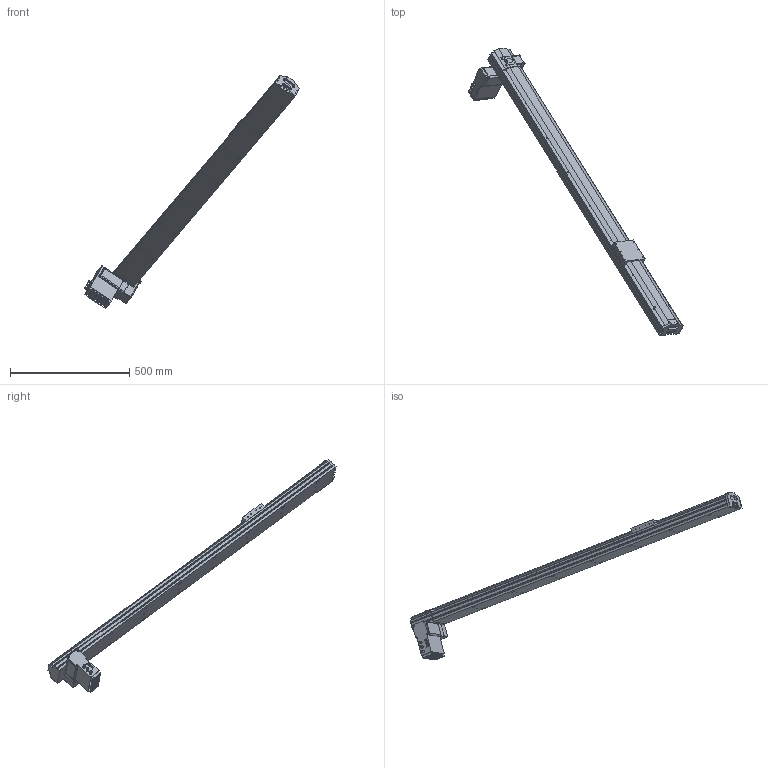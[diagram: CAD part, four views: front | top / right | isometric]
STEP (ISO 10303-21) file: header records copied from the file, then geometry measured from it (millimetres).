
FILE_DESCRIPTION (( 'STEP AP203' ), '1' );
FILE_NAME ('S10 CBH LU S1600.STEP', '2012-10-01T07:01:09', ( '' ), ( '' ), 'SwSTEP 2.0', 'SolidWorks 2010', '' );
FILE_SCHEMA (( 'CONFIG_CONTROL_DESIGN' ));
Length unit declared in the file: millimetre
Products named in the file (14): Vis M5 L16-2_Default_1; S10 CBH LU S1600; renvoi LH_Default; palette tbh; MOTEUR GMI 61 ; axe 1600; plaque de bout s10_Default; cache t皻e axe_Default; cache t皻e_Default; Plaque racord_Default; vis M5 L12_Default; Cvis M5 L30_Default; vis M5 L5_Default; embout
Assembly tree (24 placements, depth 2):
  S10 CBH LU S1600
    cache t皻e axe_Default
    vis M5 L12_Default  x4
    embout
    renvoi LH_Default
    vis M5 L5_Default  x4
    Vis M5 L16-2_Default_1  x4
    cache t皻e_Default  x2
    MOTEUR GMI 61 
    plaque de bout s10_Default
    axe 1600
    Cvis M5 L30_Default  x2
    palette tbh
    Plaque racord_Default
Bounding box: 900.23 x 1208.01 x 978.49 mm (x, y, z)
Volume: 9483034.4 mm3; surface area: 978231 mm2
Topology: 24 solids, 24 shells, 1087 faces, 2644 edges, 1638 vertices
Faces by surface type: plane 542, cylinder 396, cone 102, bspline 40, torus 7
Entity records: 27379 total; most frequent: CARTESIAN_POINT 5098, DIRECTION 4411, ORIENTED_EDGE 4104, EDGE_CURVE 2052, AXIS2_PLACEMENT_3D 1569, VERTEX_POINT 1326, LINE 1273, VECTOR 1273
